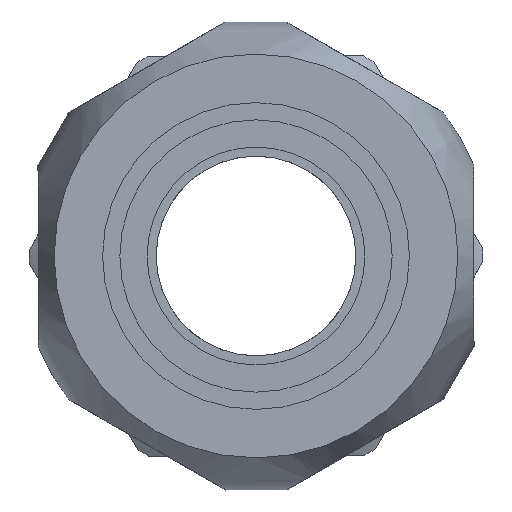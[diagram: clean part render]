
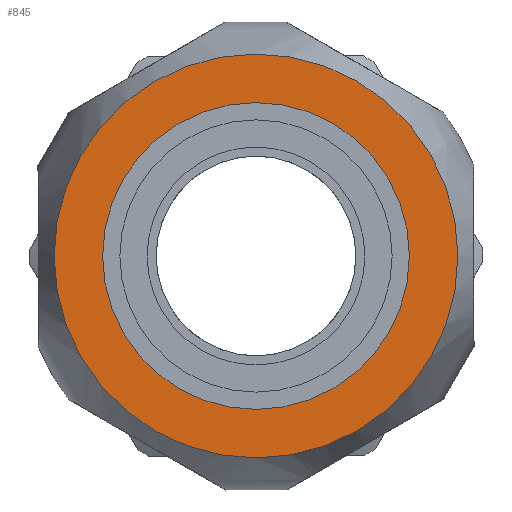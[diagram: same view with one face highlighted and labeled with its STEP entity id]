
A CAD part, left-side view. The second image highlights one B-rep face of the part: STEP entity #845.
In plain terms, the highlighted planar face has unit normal (-1, 0, 0).
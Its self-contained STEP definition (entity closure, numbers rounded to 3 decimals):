
#86=FACE_BOUND('',#190,.T.);
#101=PLANE('',#1007);
#132=FACE_OUTER_BOUND('',#189,.T.);
#189=EDGE_LOOP('',(#656,#657));
#190=EDGE_LOOP('',(#658,#659));
#302=CIRCLE('',#999,11.124);
#303=CIRCLE('',#1000,11.124);
#306=CIRCLE('',#1005,8.45);
#307=CIRCLE('',#1006,8.45);
#373=VERTEX_POINT('',#1773);
#374=VERTEX_POINT('',#1775);
#377=VERTEX_POINT('',#1784);
#378=VERTEX_POINT('',#1786);
#477=EDGE_CURVE('',#373,#374,#302,.T.);
#478=EDGE_CURVE('',#374,#373,#303,.T.);
#482=EDGE_CURVE('',#378,#377,#306,.T.);
#483=EDGE_CURVE('',#377,#378,#307,.T.);
#656=ORIENTED_EDGE('',*,*,#478,.F.);
#657=ORIENTED_EDGE('',*,*,#477,.F.);
#658=ORIENTED_EDGE('',*,*,#482,.T.);
#659=ORIENTED_EDGE('',*,*,#483,.T.);
#845=ADVANCED_FACE('',(#132,#86),#101,.T.);
#999=AXIS2_PLACEMENT_3D('',#1776,#1175,#1176);
#1000=AXIS2_PLACEMENT_3D('',#1777,#1177,#1178);
#1005=AXIS2_PLACEMENT_3D('',#1787,#1188,#1189);
#1006=AXIS2_PLACEMENT_3D('',#1788,#1190,#1191);
#1007=AXIS2_PLACEMENT_3D('',#1789,#1192,#1193);
#1175=DIRECTION('center_axis',(1.,0.,0.));
#1176=DIRECTION('ref_axis',(0.,1.,0.));
#1177=DIRECTION('center_axis',(1.,0.,0.));
#1178=DIRECTION('ref_axis',(0.,1.,0.));
#1188=DIRECTION('center_axis',(1.,0.,0.));
#1189=DIRECTION('ref_axis',(0.,1.,0.));
#1190=DIRECTION('center_axis',(1.,0.,0.));
#1191=DIRECTION('ref_axis',(0.,1.,0.));
#1192=DIRECTION('center_axis',(-1.,0.,0.));
#1193=DIRECTION('ref_axis',(0.,0.,1.));
#1773=CARTESIAN_POINT('',(0.,0.,11.124));
#1775=CARTESIAN_POINT('',(0.,11.124,0.));
#1776=CARTESIAN_POINT('Origin',(0.,0.,0.));
#1777=CARTESIAN_POINT('Origin',(0.,0.,0.));
#1784=CARTESIAN_POINT('',(0.,-8.45,0.));
#1786=CARTESIAN_POINT('',(0.,8.45,0.));
#1787=CARTESIAN_POINT('Origin',(0.,0.,0.));
#1788=CARTESIAN_POINT('Origin',(0.,0.,0.));
#1789=CARTESIAN_POINT('Origin',(0.,9.787,0.));
